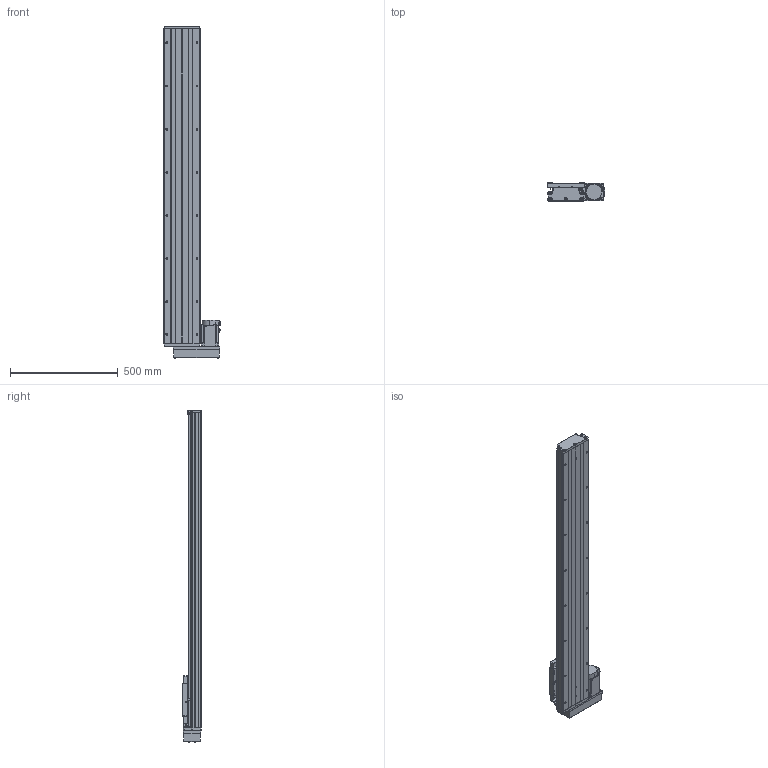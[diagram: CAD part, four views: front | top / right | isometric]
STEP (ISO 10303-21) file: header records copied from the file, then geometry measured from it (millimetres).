
FILE_DESCRIPTION (( 'STEP AP203' ), '1' );
FILE_NAME ('GTH17-1200-BR-M75-C4.step', '2023-06-30T13:17:22', ( '微软用户' ), ( '微软中国' ), 'SwSTEP 2.0', 'SolidWorks 2020', '' );
FILE_SCHEMA (( 'CONFIG_CONTROL_DESIGN' ));
Length unit declared in the file: millimetre
Products named in the file (19): GBT 70.2-M3¡Á5_M3¡Á6; EE_SX911P_R; す晦芛蹟隊 M3℅5; GTH17-001_1200; CTHA60-016; HG-KN73J-S100; GTH17-002_GTH17-002; GBT 70.1-M3℅5; GBT 70.2-M4¡Á45_M4¡Á35; GTH17-004; GBT77-2000 M3×3; GTH17-015-2_CTHA86-015-2; GTH17-005; GBT 70.1-M6¡Á20_M6¡Á20; GTH17-033; GB1155-6X6; GTH17-031; GTH17-1200-BR-M75-C4; CTHA60-017
Assembly tree (58 placements, depth 2):
  GTH17-1200-BR-M75-C4
    GTH17-001_1200
    GTH17-002_GTH17-002
    GTH17-004
    GTH17-005
    GB1155-6X6  x2
    CTHA60-017  x3
    EE_SX911P_R  x3
    CTHA60-016  x2
    GBT 70.1-M3℅5  x6
    GBT77-2000 M3×3  x6
    GBT 70.1-M6¡Á20_M6¡Á20  x10
    GTH17-031
    GBT 70.2-M3¡Á5_M3¡Á6  x8
    す晦芛蹟隊 M3℅5  x6
    HG-KN73J-S100
    GBT 70.2-M4¡Á45_M4¡Á35  x4
    GTH17-015-2_CTHA86-015-2
    GTH17-033
Bounding box: 264.3 x 87 x 1538.2 mm (x, y, z)
Volume: 12400162.9 mm3; surface area: 1624277.7 mm2
Topology: 61 solids, 61 shells, 2469 faces, 5893 edges, 3651 vertices
Faces by surface type: plane 1314, cylinder 682, cone 297, torus 124, sphere 32, bspline 20
Entity records: 45354 total; most frequent: CARTESIAN_POINT 10466, DIRECTION 6601, ORIENTED_EDGE 6498, EDGE_CURVE 3249, AXIS2_PLACEMENT_3D 2264, VECTOR 2073, LINE 2073, VERTEX_POINT 2063
